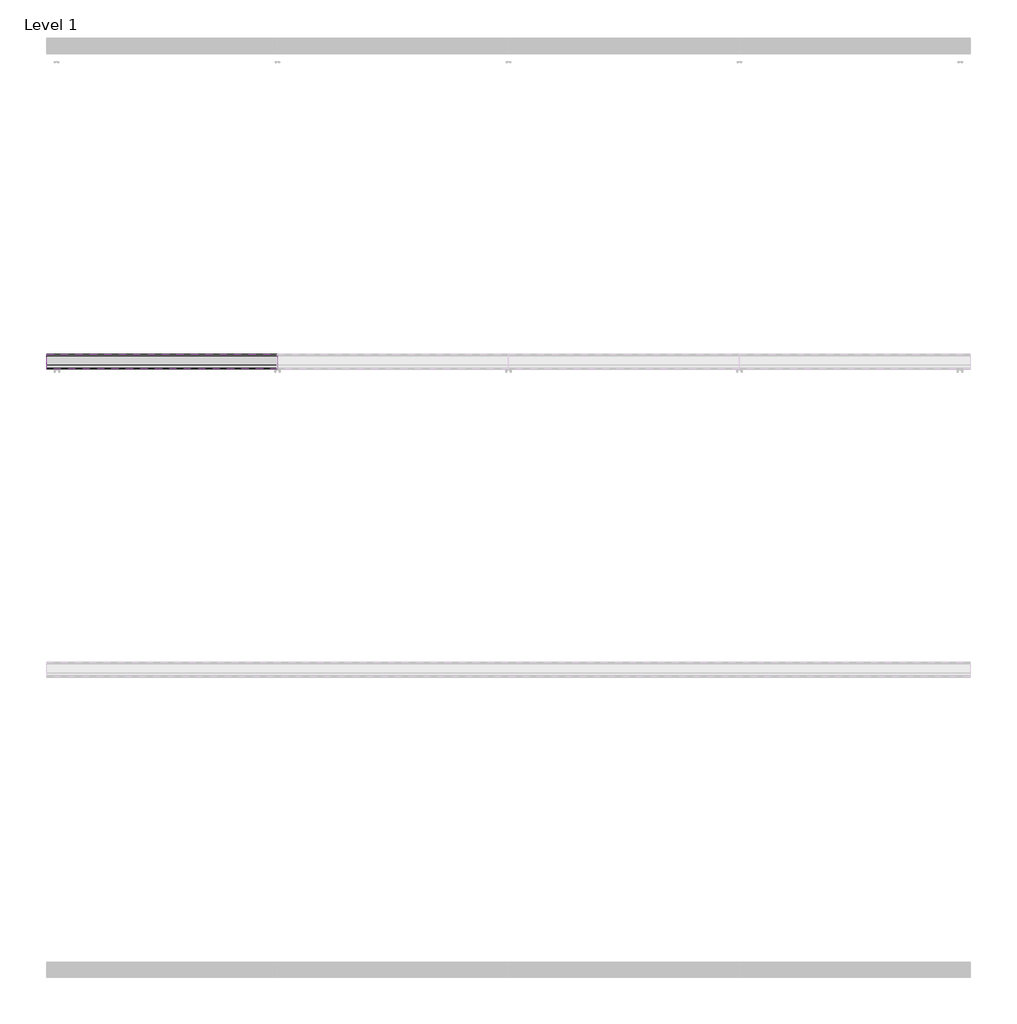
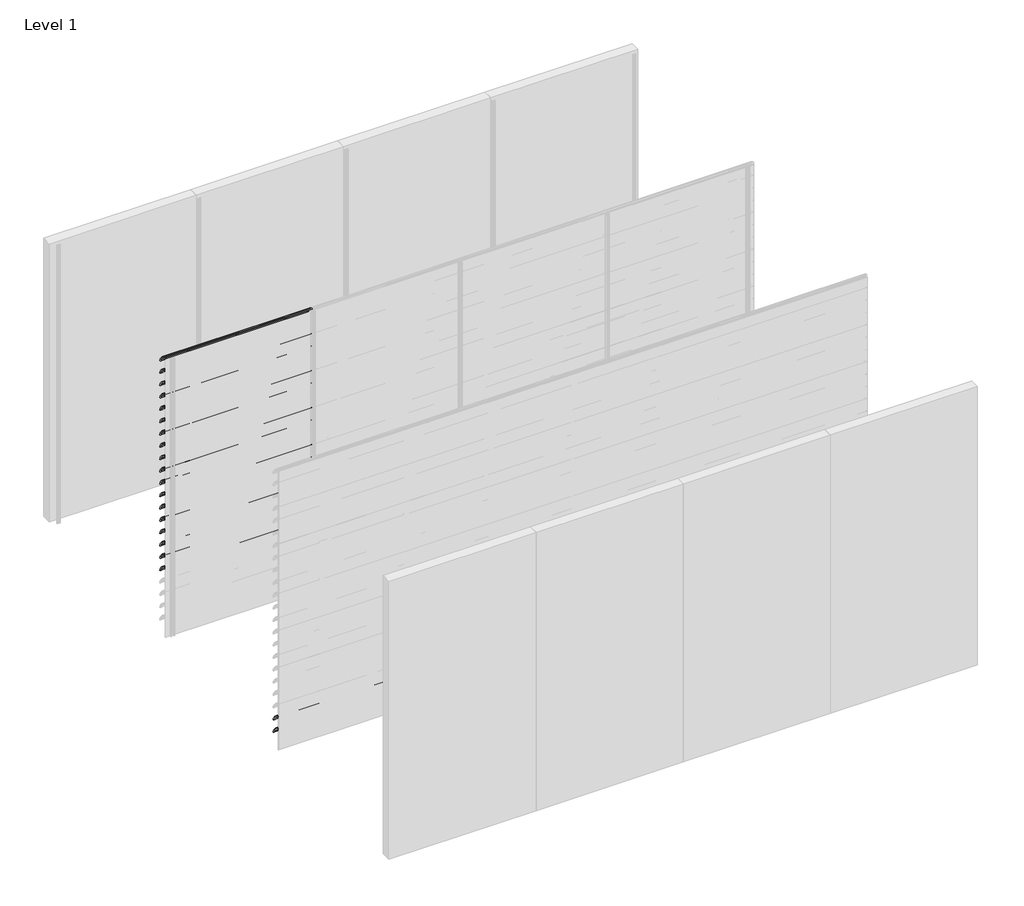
# One storey, part 48 of 57: 20 proxies.
"""IFC4 building model written with IfcOpenShell, lengths in millimetres."""

from ifc_helpers import new_model, si_unit, point, frame, frame_2d, origin, place, context, project, spatial, polyline, circle_curve, trimmed, segment, composite_curve, outline, extrude, element, save

model = new_model("IFC4")

# Units and contexts
model_context = context("Model", 3, world=origin())
ifc_project = project(units=[si_unit("LENGTHUNIT", "METRE", prefix="MILLI")], contexts=[model_context])

# Site, building, storey
site = spatial("IfcSite", under=ifc_project)
building = spatial("IfcBuilding", under=site)
storey = spatial("IfcBuildingStorey", under=building, Name="Level 1", Elevation=0.0)

# Proxies
placement = place(None, origin())
element("IfcBuildingElementProxy", 1, Name="Wall Sweeps", at=placement, inside=storey, context=model_context, shape_type="SweptSolid", body=[
    extrude(outline(composite_curve([segment(trimmed(circle_curve(frame_2d((-5993.7822526, 3016.4913792)), 4.2177474), [point((-5989.6985606, 3017.5462976))], [point((-5993.7822526, 3020.7091266))], False, "CARTESIAN"), True, "CONTINUOUS"), segment(trimmed(circle_curve(frame_2d((-6018.7150834, 2918.2536312)), 105.4456002), [point((-5993.7822526, 3020.7091266))], [point((-5971.7914298, 3012.6832099))], False, "CARTESIAN"), True, "CONTINUOUS"), segment(trimmed(circle_curve(frame_2d((-6061.7199745, 2864.0352476)), 173.7335887), [point((-5971.7914298, 3012.6832099))], [point((-5913.0720121, 2953.9637922))], False, "CARTESIAN"), True, "CONTINUOUS"), segment(trimmed(circle_curve(frame_2d((-6004.9297178, 2902.1860314)), 105.4456002), [point((-5913.0720121, 2953.9637922))], [point((-5903.6249616, 2931.4455765))], False, "CARTESIAN"), True, "CONTINUOUS"), segment(trimmed(circle_curve(frame_2d((-5907.809737, 2930.3307305)), 4.3307305), [point((-5903.6249616, 2931.4455765))], [point((-5909.0769196, 2926.189538))], False, "CARTESIAN"), True, "CONTINUOUS"), segment(polyline([(-5909.0769196, 2926.189538), (-5934.7401984, 2950.9722783)]), True, "CONTINUOUS"), segment(trimmed(circle_curve(frame_2d((-5931.3879574, 2953.2977626)), 4.079877), [point((-5934.7401984, 2950.9722783))], [point((-5930.7310597, 2957.3244091))], False, "CARTESIAN"), True, "CONTINUOUS"), segment(trimmed(circle_curve(frame_2d((-6014.6665585, 2935.2544323)), 86.7885467), [point((-5930.7310597, 2957.3244091))], [point((-5942.3028351, 2983.1683485))], True, "CARTESIAN"), True, "CONTINUOUS"), segment(polyline([(-5942.3028351, 2983.1683485), (-5940.7230099, 2985.9046861)]), True, "CONTINUOUS"), segment(trimmed(circle_curve(frame_2d((-6061.7199745, 2864.0352476)), 171.7335887), [point((-5940.7230099, 2985.9046861))], [point((-5972.7555872, 3010.9289618))], True, "CARTESIAN"), True, "CONTINUOUS"), segment(trimmed(circle_curve(frame_2d((-6018.7150834, 2918.2536312)), 103.4456002), [point((-5972.7555872, 3010.9289618))], [point((-5989.6985606, 3017.5462976))], True, "CARTESIAN"), True, "CONTINUOUS")], self_intersect=False)), frame((0.0, 0.0, 0.0), z_axis=(1.0, 0.0, 0.0), x_axis=(0.0, 1.0, 0.0)), (0.0, 0.0, 1.0), 1500.0),
])
element("IfcBuildingElementProxy", 2, Name="Wall Sweeps", at=placement, inside=storey, context=model_context, shape_type="SweptSolid", body=[
    extrude(outline(composite_curve([segment(trimmed(circle_curve(frame_2d((-5993.7822526, 2883.4913792)), 4.2177474), [point((-5989.6985606, 2884.5462976))], [point((-5993.7822526, 2887.7091266))], False, "CARTESIAN"), True, "CONTINUOUS"), segment(trimmed(circle_curve(frame_2d((-6018.7150834, 2785.2536312)), 105.4456002), [point((-5993.7822526, 2887.7091266))], [point((-5971.7914298, 2879.6832099))], False, "CARTESIAN"), True, "CONTINUOUS"), segment(trimmed(circle_curve(frame_2d((-6061.7199745, 2731.0352476)), 173.7335887), [point((-5971.7914298, 2879.6832099))], [point((-5913.0720121, 2820.9637922))], False, "CARTESIAN"), True, "CONTINUOUS"), segment(trimmed(circle_curve(frame_2d((-6004.9297178, 2769.1860314)), 105.4456002), [point((-5913.0720121, 2820.9637922))], [point((-5903.6249616, 2798.4455765))], False, "CARTESIAN"), True, "CONTINUOUS"), segment(trimmed(circle_curve(frame_2d((-5907.809737, 2797.3307305)), 4.3307305), [point((-5903.6249616, 2798.4455765))], [point((-5909.0769196, 2793.189538))], False, "CARTESIAN"), True, "CONTINUOUS"), segment(polyline([(-5909.0769196, 2793.189538), (-5934.7401984, 2817.9722783)]), True, "CONTINUOUS"), segment(trimmed(circle_curve(frame_2d((-5931.3879574, 2820.2977626)), 4.079877), [point((-5934.7401984, 2817.9722783))], [point((-5930.7310597, 2824.3244091))], False, "CARTESIAN"), True, "CONTINUOUS"), segment(trimmed(circle_curve(frame_2d((-6014.6665585, 2802.2544323)), 86.7885467), [point((-5930.7310597, 2824.3244091))], [point((-5942.3028351, 2850.1683485))], True, "CARTESIAN"), True, "CONTINUOUS"), segment(polyline([(-5942.3028351, 2850.1683485), (-5940.7230099, 2852.9046861)]), True, "CONTINUOUS"), segment(trimmed(circle_curve(frame_2d((-6061.7199745, 2731.0352476)), 171.7335887), [point((-5940.7230099, 2852.9046861))], [point((-5972.7555872, 2877.9289618))], True, "CARTESIAN"), True, "CONTINUOUS"), segment(trimmed(circle_curve(frame_2d((-6018.7150834, 2785.2536312)), 103.4456002), [point((-5972.7555872, 2877.9289618))], [point((-5989.6985606, 2884.5462976))], True, "CARTESIAN"), True, "CONTINUOUS")], self_intersect=False)), frame((0.0, 0.0, 0.0), z_axis=(1.0, 0.0, 0.0), x_axis=(0.0, 1.0, 0.0)), (0.0, 0.0, 1.0), 1500.0),
])
element("IfcBuildingElementProxy", 3, Name="Wall Sweeps", at=placement, inside=storey, context=model_context, shape_type="SweptSolid", body=[
    extrude(outline(composite_curve([segment(trimmed(circle_curve(frame_2d((-5993.7822526, 2750.4913792)), 4.2177474), [point((-5989.6985606, 2751.5462976))], [point((-5993.7822526, 2754.7091266))], False, "CARTESIAN"), True, "CONTINUOUS"), segment(trimmed(circle_curve(frame_2d((-6018.7150834, 2652.2536312)), 105.4456002), [point((-5993.7822526, 2754.7091266))], [point((-5971.7914298, 2746.6832099))], False, "CARTESIAN"), True, "CONTINUOUS"), segment(trimmed(circle_curve(frame_2d((-6061.7199745, 2598.0352476)), 173.7335887), [point((-5971.7914298, 2746.6832099))], [point((-5913.0720121, 2687.9637922))], False, "CARTESIAN"), True, "CONTINUOUS"), segment(trimmed(circle_curve(frame_2d((-6004.9297178, 2636.1860314)), 105.4456002), [point((-5913.0720121, 2687.9637922))], [point((-5903.6249616, 2665.4455765))], False, "CARTESIAN"), True, "CONTINUOUS"), segment(trimmed(circle_curve(frame_2d((-5907.809737, 2664.3307305)), 4.3307305), [point((-5903.6249616, 2665.4455765))], [point((-5909.0769196, 2660.189538))], False, "CARTESIAN"), True, "CONTINUOUS"), segment(polyline([(-5909.0769196, 2660.189538), (-5934.7401984, 2684.9722783)]), True, "CONTINUOUS"), segment(trimmed(circle_curve(frame_2d((-5931.3879574, 2687.2977626)), 4.079877), [point((-5934.7401984, 2684.9722783))], [point((-5930.7310597, 2691.3244091))], False, "CARTESIAN"), True, "CONTINUOUS"), segment(trimmed(circle_curve(frame_2d((-6014.6665585, 2669.2544323)), 86.7885467), [point((-5930.7310597, 2691.3244091))], [point((-5942.3028351, 2717.1683485))], True, "CARTESIAN"), True, "CONTINUOUS"), segment(polyline([(-5942.3028351, 2717.1683485), (-5940.7230099, 2719.9046861)]), True, "CONTINUOUS"), segment(trimmed(circle_curve(frame_2d((-6061.7199745, 2598.0352476)), 171.7335887), [point((-5940.7230099, 2719.9046861))], [point((-5972.7555872, 2744.9289618))], True, "CARTESIAN"), True, "CONTINUOUS"), segment(trimmed(circle_curve(frame_2d((-6018.7150834, 2652.2536312)), 103.4456002), [point((-5972.7555872, 2744.9289618))], [point((-5989.6985606, 2751.5462976))], True, "CARTESIAN"), True, "CONTINUOUS")], self_intersect=False)), frame((0.0, 0.0, 0.0), z_axis=(1.0, 0.0, 0.0), x_axis=(0.0, 1.0, 0.0)), (0.0, 0.0, 1.0), 1500.0),
])
element("IfcBuildingElementProxy", 4, Name="Wall Sweeps", at=placement, inside=storey, context=model_context, shape_type="SweptSolid", body=[
    extrude(outline(composite_curve([segment(trimmed(circle_curve(frame_2d((-5993.7822526, 2617.4913792)), 4.2177474), [point((-5989.6985606, 2618.5462976))], [point((-5993.7822526, 2621.7091266))], False, "CARTESIAN"), True, "CONTINUOUS"), segment(trimmed(circle_curve(frame_2d((-6018.7150834, 2519.2536312)), 105.4456002), [point((-5993.7822526, 2621.7091266))], [point((-5971.7914298, 2613.6832099))], False, "CARTESIAN"), True, "CONTINUOUS"), segment(trimmed(circle_curve(frame_2d((-6061.7199745, 2465.0352476)), 173.7335887), [point((-5971.7914298, 2613.6832099))], [point((-5913.0720121, 2554.9637922))], False, "CARTESIAN"), True, "CONTINUOUS"), segment(trimmed(circle_curve(frame_2d((-6004.9297178, 2503.1860314)), 105.4456002), [point((-5913.0720121, 2554.9637922))], [point((-5903.6249616, 2532.4455765))], False, "CARTESIAN"), True, "CONTINUOUS"), segment(trimmed(circle_curve(frame_2d((-5907.809737, 2531.3307305)), 4.3307305), [point((-5903.6249616, 2532.4455765))], [point((-5909.0769196, 2527.189538))], False, "CARTESIAN"), True, "CONTINUOUS"), segment(polyline([(-5909.0769196, 2527.189538), (-5934.7401984, 2551.9722783)]), True, "CONTINUOUS"), segment(trimmed(circle_curve(frame_2d((-5931.3879574, 2554.2977626)), 4.079877), [point((-5934.7401984, 2551.9722783))], [point((-5930.7310597, 2558.3244091))], False, "CARTESIAN"), True, "CONTINUOUS"), segment(trimmed(circle_curve(frame_2d((-6014.6665585, 2536.2544323)), 86.7885467), [point((-5930.7310597, 2558.3244091))], [point((-5942.3028351, 2584.1683485))], True, "CARTESIAN"), True, "CONTINUOUS"), segment(polyline([(-5942.3028351, 2584.1683485), (-5940.7230099, 2586.9046861)]), True, "CONTINUOUS"), segment(trimmed(circle_curve(frame_2d((-6061.7199745, 2465.0352476)), 171.7335887), [point((-5940.7230099, 2586.9046861))], [point((-5972.7555872, 2611.9289618))], True, "CARTESIAN"), True, "CONTINUOUS"), segment(trimmed(circle_curve(frame_2d((-6018.7150834, 2519.2536312)), 103.4456002), [point((-5972.7555872, 2611.9289618))], [point((-5989.6985606, 2618.5462976))], True, "CARTESIAN"), True, "CONTINUOUS")], self_intersect=False)), frame((0.0, 0.0, 0.0), z_axis=(1.0, 0.0, 0.0), x_axis=(0.0, 1.0, 0.0)), (0.0, 0.0, 1.0), 1500.0),
])
element("IfcBuildingElementProxy", 5, Name="Wall Sweeps", at=placement, inside=storey, context=model_context, shape_type="SweptSolid", body=[
    extrude(outline(composite_curve([segment(trimmed(circle_curve(frame_2d((-5993.7822526, 2484.4913792)), 4.2177474), [point((-5989.6985606, 2485.5462976))], [point((-5993.7822526, 2488.7091266))], False, "CARTESIAN"), True, "CONTINUOUS"), segment(trimmed(circle_curve(frame_2d((-6018.7150834, 2386.2536312)), 105.4456002), [point((-5993.7822526, 2488.7091266))], [point((-5971.7914298, 2480.6832099))], False, "CARTESIAN"), True, "CONTINUOUS"), segment(trimmed(circle_curve(frame_2d((-6061.7199745, 2332.0352476)), 173.7335887), [point((-5971.7914298, 2480.6832099))], [point((-5913.0720121, 2421.9637922))], False, "CARTESIAN"), True, "CONTINUOUS"), segment(trimmed(circle_curve(frame_2d((-6004.9297178, 2370.1860314)), 105.4456002), [point((-5913.0720121, 2421.9637922))], [point((-5903.6249616, 2399.4455765))], False, "CARTESIAN"), True, "CONTINUOUS"), segment(trimmed(circle_curve(frame_2d((-5907.809737, 2398.3307305)), 4.3307305), [point((-5903.6249616, 2399.4455765))], [point((-5909.0769196, 2394.189538))], False, "CARTESIAN"), True, "CONTINUOUS"), segment(polyline([(-5909.0769196, 2394.189538), (-5934.7401984, 2418.9722783)]), True, "CONTINUOUS"), segment(trimmed(circle_curve(frame_2d((-5931.3879574, 2421.2977626)), 4.079877), [point((-5934.7401984, 2418.9722783))], [point((-5930.7310597, 2425.3244091))], False, "CARTESIAN"), True, "CONTINUOUS"), segment(trimmed(circle_curve(frame_2d((-6014.6665585, 2403.2544323)), 86.7885467), [point((-5930.7310597, 2425.3244091))], [point((-5942.3028351, 2451.1683485))], True, "CARTESIAN"), True, "CONTINUOUS"), segment(polyline([(-5942.3028351, 2451.1683485), (-5940.7230099, 2453.9046861)]), True, "CONTINUOUS"), segment(trimmed(circle_curve(frame_2d((-6061.7199745, 2332.0352476)), 171.7335887), [point((-5940.7230099, 2453.9046861))], [point((-5972.7555872, 2478.9289618))], True, "CARTESIAN"), True, "CONTINUOUS"), segment(trimmed(circle_curve(frame_2d((-6018.7150834, 2386.2536312)), 103.4456002), [point((-5972.7555872, 2478.9289618))], [point((-5989.6985606, 2485.5462976))], True, "CARTESIAN"), True, "CONTINUOUS")], self_intersect=False)), frame((0.0, 0.0, 0.0), z_axis=(1.0, 0.0, 0.0), x_axis=(0.0, 1.0, 0.0)), (0.0, 0.0, 1.0), 1500.0),
])
element("IfcBuildingElementProxy", 6, Name="Wall Sweeps", at=placement, inside=storey, context=model_context, shape_type="SweptSolid", body=[
    extrude(outline(composite_curve([segment(trimmed(circle_curve(frame_2d((-5993.7822526, 2351.4913792)), 4.2177474), [point((-5989.6985606, 2352.5462976))], [point((-5993.7822526, 2355.7091266))], False, "CARTESIAN"), True, "CONTINUOUS"), segment(trimmed(circle_curve(frame_2d((-6018.7150834, 2253.2536312)), 105.4456002), [point((-5993.7822526, 2355.7091266))], [point((-5971.7914298, 2347.6832099))], False, "CARTESIAN"), True, "CONTINUOUS"), segment(trimmed(circle_curve(frame_2d((-6061.7199745, 2199.0352476)), 173.7335887), [point((-5971.7914298, 2347.6832099))], [point((-5913.0720121, 2288.9637922))], False, "CARTESIAN"), True, "CONTINUOUS"), segment(trimmed(circle_curve(frame_2d((-6004.9297178, 2237.1860314)), 105.4456002), [point((-5913.0720121, 2288.9637922))], [point((-5903.6249616, 2266.4455765))], False, "CARTESIAN"), True, "CONTINUOUS"), segment(trimmed(circle_curve(frame_2d((-5907.809737, 2265.3307305)), 4.3307305), [point((-5903.6249616, 2266.4455765))], [point((-5909.0769196, 2261.189538))], False, "CARTESIAN"), True, "CONTINUOUS"), segment(polyline([(-5909.0769196, 2261.189538), (-5934.7401984, 2285.9722783)]), True, "CONTINUOUS"), segment(trimmed(circle_curve(frame_2d((-5931.3879574, 2288.2977626)), 4.079877), [point((-5934.7401984, 2285.9722783))], [point((-5930.7310597, 2292.3244091))], False, "CARTESIAN"), True, "CONTINUOUS"), segment(trimmed(circle_curve(frame_2d((-6014.6665585, 2270.2544323)), 86.7885467), [point((-5930.7310597, 2292.3244091))], [point((-5942.3028351, 2318.1683485))], True, "CARTESIAN"), True, "CONTINUOUS"), segment(polyline([(-5942.3028351, 2318.1683485), (-5940.7230099, 2320.9046861)]), True, "CONTINUOUS"), segment(trimmed(circle_curve(frame_2d((-6061.7199745, 2199.0352476)), 171.7335887), [point((-5940.7230099, 2320.9046861))], [point((-5972.7555872, 2345.9289618))], True, "CARTESIAN"), True, "CONTINUOUS"), segment(trimmed(circle_curve(frame_2d((-6018.7150834, 2253.2536312)), 103.4456002), [point((-5972.7555872, 2345.9289618))], [point((-5989.6985606, 2352.5462976))], True, "CARTESIAN"), True, "CONTINUOUS")], self_intersect=False)), frame((0.0, 0.0, 0.0), z_axis=(1.0, 0.0, 0.0), x_axis=(0.0, 1.0, 0.0)), (0.0, 0.0, 1.0), 1500.0),
])
element("IfcBuildingElementProxy", 7, Name="Wall Sweeps", at=placement, inside=storey, context=model_context, shape_type="SweptSolid", body=[
    extrude(outline(composite_curve([segment(trimmed(circle_curve(frame_2d((-5993.7822526, 2218.4913792)), 4.2177474), [point((-5989.6985606, 2219.5462976))], [point((-5993.7822526, 2222.7091266))], False, "CARTESIAN"), True, "CONTINUOUS"), segment(trimmed(circle_curve(frame_2d((-6018.7150834, 2120.2536312)), 105.4456002), [point((-5993.7822526, 2222.7091266))], [point((-5971.7914298, 2214.6832099))], False, "CARTESIAN"), True, "CONTINUOUS"), segment(trimmed(circle_curve(frame_2d((-6061.7199745, 2066.0352476)), 173.7335887), [point((-5971.7914298, 2214.6832099))], [point((-5913.0720121, 2155.9637922))], False, "CARTESIAN"), True, "CONTINUOUS"), segment(trimmed(circle_curve(frame_2d((-6004.9297178, 2104.1860314)), 105.4456002), [point((-5913.0720121, 2155.9637922))], [point((-5903.6249616, 2133.4455765))], False, "CARTESIAN"), True, "CONTINUOUS"), segment(trimmed(circle_curve(frame_2d((-5907.809737, 2132.3307305)), 4.3307305), [point((-5903.6249616, 2133.4455765))], [point((-5909.0769196, 2128.189538))], False, "CARTESIAN"), True, "CONTINUOUS"), segment(polyline([(-5909.0769196, 2128.189538), (-5934.7401984, 2152.9722783)]), True, "CONTINUOUS"), segment(trimmed(circle_curve(frame_2d((-5931.3879574, 2155.2977626)), 4.079877), [point((-5934.7401984, 2152.9722783))], [point((-5930.7310597, 2159.3244091))], False, "CARTESIAN"), True, "CONTINUOUS"), segment(trimmed(circle_curve(frame_2d((-6014.6665585, 2137.2544323)), 86.7885467), [point((-5930.7310597, 2159.3244091))], [point((-5942.3028351, 2185.1683485))], True, "CARTESIAN"), True, "CONTINUOUS"), segment(polyline([(-5942.3028351, 2185.1683485), (-5940.7230099, 2187.9046861)]), True, "CONTINUOUS"), segment(trimmed(circle_curve(frame_2d((-6061.7199745, 2066.0352476)), 171.7335887), [point((-5940.7230099, 2187.9046861))], [point((-5972.7555872, 2212.9289618))], True, "CARTESIAN"), True, "CONTINUOUS"), segment(trimmed(circle_curve(frame_2d((-6018.7150834, 2120.2536312)), 103.4456002), [point((-5972.7555872, 2212.9289618))], [point((-5989.6985606, 2219.5462976))], True, "CARTESIAN"), True, "CONTINUOUS")], self_intersect=False)), frame((0.0, 0.0, 0.0), z_axis=(1.0, 0.0, 0.0), x_axis=(0.0, 1.0, 0.0)), (0.0, 0.0, 1.0), 1500.0),
])
element("IfcBuildingElementProxy", 8, Name="Wall Sweeps", at=placement, inside=storey, context=model_context, shape_type="SweptSolid", body=[
    extrude(outline(composite_curve([segment(trimmed(circle_curve(frame_2d((-5993.7822526, 2085.4913792)), 4.2177474), [point((-5989.6985606, 2086.5462976))], [point((-5993.7822526, 2089.7091266))], False, "CARTESIAN"), True, "CONTINUOUS"), segment(trimmed(circle_curve(frame_2d((-6018.7150834, 1987.2536312)), 105.4456002), [point((-5993.7822526, 2089.7091266))], [point((-5971.7914298, 2081.6832099))], False, "CARTESIAN"), True, "CONTINUOUS"), segment(trimmed(circle_curve(frame_2d((-6061.7199745, 1933.0352476)), 173.7335887), [point((-5971.7914298, 2081.6832099))], [point((-5913.0720121, 2022.9637922))], False, "CARTESIAN"), True, "CONTINUOUS"), segment(trimmed(circle_curve(frame_2d((-6004.9297178, 1971.1860314)), 105.4456002), [point((-5913.0720121, 2022.9637922))], [point((-5903.6249616, 2000.4455765))], False, "CARTESIAN"), True, "CONTINUOUS"), segment(trimmed(circle_curve(frame_2d((-5907.809737, 1999.3307305)), 4.3307305), [point((-5903.6249616, 2000.4455765))], [point((-5909.0769196, 1995.189538))], False, "CARTESIAN"), True, "CONTINUOUS"), segment(polyline([(-5909.0769196, 1995.189538), (-5934.7401984, 2019.9722783)]), True, "CONTINUOUS"), segment(trimmed(circle_curve(frame_2d((-5931.3879574, 2022.2977626)), 4.079877), [point((-5934.7401984, 2019.9722783))], [point((-5930.7310597, 2026.3244091))], False, "CARTESIAN"), True, "CONTINUOUS"), segment(trimmed(circle_curve(frame_2d((-6014.6665585, 2004.2544323)), 86.7885467), [point((-5930.7310597, 2026.3244091))], [point((-5942.3028351, 2052.1683485))], True, "CARTESIAN"), True, "CONTINUOUS"), segment(polyline([(-5942.3028351, 2052.1683485), (-5940.7230099, 2054.9046861)]), True, "CONTINUOUS"), segment(trimmed(circle_curve(frame_2d((-6061.7199745, 1933.0352476)), 171.7335887), [point((-5940.7230099, 2054.9046861))], [point((-5972.7555872, 2079.9289618))], True, "CARTESIAN"), True, "CONTINUOUS"), segment(trimmed(circle_curve(frame_2d((-6018.7150834, 1987.2536312)), 103.4456002), [point((-5972.7555872, 2079.9289618))], [point((-5989.6985606, 2086.5462976))], True, "CARTESIAN"), True, "CONTINUOUS")], self_intersect=False)), frame((0.0, 0.0, 0.0), z_axis=(1.0, 0.0, 0.0), x_axis=(0.0, 1.0, 0.0)), (0.0, 0.0, 1.0), 1500.0),
])
element("IfcBuildingElementProxy", 9, Name="Wall Sweeps", at=placement, inside=storey, context=model_context, shape_type="SweptSolid", body=[
    extrude(outline(composite_curve([segment(trimmed(circle_curve(frame_2d((-5993.7822526, 1952.4913792)), 4.2177474), [point((-5989.6985606, 1953.5462976))], [point((-5993.7822526, 1956.7091266))], False, "CARTESIAN"), True, "CONTINUOUS"), segment(trimmed(circle_curve(frame_2d((-6018.7150834, 1854.2536312)), 105.4456002), [point((-5993.7822526, 1956.7091266))], [point((-5971.7914298, 1948.6832099))], False, "CARTESIAN"), True, "CONTINUOUS"), segment(trimmed(circle_curve(frame_2d((-6061.7199745, 1800.0352476)), 173.7335887), [point((-5971.7914298, 1948.6832099))], [point((-5913.0720121, 1889.9637922))], False, "CARTESIAN"), True, "CONTINUOUS"), segment(trimmed(circle_curve(frame_2d((-6004.9297178, 1838.1860314)), 105.4456002), [point((-5913.0720121, 1889.9637922))], [point((-5903.6249616, 1867.4455765))], False, "CARTESIAN"), True, "CONTINUOUS"), segment(trimmed(circle_curve(frame_2d((-5907.809737, 1866.3307305)), 4.3307305), [point((-5903.6249616, 1867.4455765))], [point((-5909.0769196, 1862.189538))], False, "CARTESIAN"), True, "CONTINUOUS"), segment(polyline([(-5909.0769196, 1862.189538), (-5934.7401984, 1886.9722783)]), True, "CONTINUOUS"), segment(trimmed(circle_curve(frame_2d((-5931.3879574, 1889.2977626)), 4.079877), [point((-5934.7401984, 1886.9722783))], [point((-5930.7310597, 1893.3244091))], False, "CARTESIAN"), True, "CONTINUOUS"), segment(trimmed(circle_curve(frame_2d((-6014.6665585, 1871.2544323)), 86.7885467), [point((-5930.7310597, 1893.3244091))], [point((-5942.3028351, 1919.1683485))], True, "CARTESIAN"), True, "CONTINUOUS"), segment(polyline([(-5942.3028351, 1919.1683485), (-5940.7230099, 1921.9046861)]), True, "CONTINUOUS"), segment(trimmed(circle_curve(frame_2d((-6061.7199745, 1800.0352476)), 171.7335887), [point((-5940.7230099, 1921.9046861))], [point((-5972.7555872, 1946.9289618))], True, "CARTESIAN"), True, "CONTINUOUS"), segment(trimmed(circle_curve(frame_2d((-6018.7150834, 1854.2536312)), 103.4456002), [point((-5972.7555872, 1946.9289618))], [point((-5989.6985606, 1953.5462976))], True, "CARTESIAN"), True, "CONTINUOUS")], self_intersect=False)), frame((0.0, 0.0, 0.0), z_axis=(1.0, 0.0, 0.0), x_axis=(0.0, 1.0, 0.0)), (0.0, 0.0, 1.0), 1500.0),
])
element("IfcBuildingElementProxy", 10, Name="Wall Sweeps", at=placement, inside=storey, context=model_context, shape_type="SweptSolid", body=[
    extrude(outline(composite_curve([segment(trimmed(circle_curve(frame_2d((-5993.7822526, 1819.4913792)), 4.2177474), [point((-5989.6985606, 1820.5462976))], [point((-5993.7822526, 1823.7091266))], False, "CARTESIAN"), True, "CONTINUOUS"), segment(trimmed(circle_curve(frame_2d((-6018.7150834, 1721.2536312)), 105.4456002), [point((-5993.7822526, 1823.7091266))], [point((-5971.7914298, 1815.6832099))], False, "CARTESIAN"), True, "CONTINUOUS"), segment(trimmed(circle_curve(frame_2d((-6061.7199745, 1667.0352476)), 173.7335887), [point((-5971.7914298, 1815.6832099))], [point((-5913.0720121, 1756.9637922))], False, "CARTESIAN"), True, "CONTINUOUS"), segment(trimmed(circle_curve(frame_2d((-6004.9297178, 1705.1860314)), 105.4456002), [point((-5913.0720121, 1756.9637922))], [point((-5903.6249616, 1734.4455765))], False, "CARTESIAN"), True, "CONTINUOUS"), segment(trimmed(circle_curve(frame_2d((-5907.809737, 1733.3307305)), 4.3307305), [point((-5903.6249616, 1734.4455765))], [point((-5909.0769196, 1729.189538))], False, "CARTESIAN"), True, "CONTINUOUS"), segment(polyline([(-5909.0769196, 1729.189538), (-5934.7401984, 1753.9722783)]), True, "CONTINUOUS"), segment(trimmed(circle_curve(frame_2d((-5931.3879574, 1756.2977626)), 4.079877), [point((-5934.7401984, 1753.9722783))], [point((-5930.7310597, 1760.3244091))], False, "CARTESIAN"), True, "CONTINUOUS"), segment(trimmed(circle_curve(frame_2d((-6014.6665585, 1738.2544323)), 86.7885467), [point((-5930.7310597, 1760.3244091))], [point((-5942.3028351, 1786.1683485))], True, "CARTESIAN"), True, "CONTINUOUS"), segment(polyline([(-5942.3028351, 1786.1683485), (-5940.7230099, 1788.9046861)]), True, "CONTINUOUS"), segment(trimmed(circle_curve(frame_2d((-6061.7199745, 1667.0352476)), 171.7335887), [point((-5940.7230099, 1788.9046861))], [point((-5972.7555872, 1813.9289618))], True, "CARTESIAN"), True, "CONTINUOUS"), segment(trimmed(circle_curve(frame_2d((-6018.7150834, 1721.2536312)), 103.4456002), [point((-5972.7555872, 1813.9289618))], [point((-5989.6985606, 1820.5462976))], True, "CARTESIAN"), True, "CONTINUOUS")], self_intersect=False)), frame((0.0, 0.0, 0.0), z_axis=(1.0, 0.0, 0.0), x_axis=(0.0, 1.0, 0.0)), (0.0, 0.0, 1.0), 1500.0),
])
element("IfcBuildingElementProxy", 11, Name="Wall Sweeps", at=placement, inside=storey, context=model_context, shape_type="SweptSolid", body=[
    extrude(outline(composite_curve([segment(trimmed(circle_curve(frame_2d((-5993.7822526, 1686.4913792)), 4.2177474), [point((-5989.6985606, 1687.5462976))], [point((-5993.7822526, 1690.7091266))], False, "CARTESIAN"), True, "CONTINUOUS"), segment(trimmed(circle_curve(frame_2d((-6018.7150834, 1588.2536312)), 105.4456002), [point((-5993.7822526, 1690.7091266))], [point((-5971.7914298, 1682.6832099))], False, "CARTESIAN"), True, "CONTINUOUS"), segment(trimmed(circle_curve(frame_2d((-6061.7199745, 1534.0352476)), 173.7335887), [point((-5971.7914298, 1682.6832099))], [point((-5913.0720121, 1623.9637922))], False, "CARTESIAN"), True, "CONTINUOUS"), segment(trimmed(circle_curve(frame_2d((-6004.9297178, 1572.1860314)), 105.4456002), [point((-5913.0720121, 1623.9637922))], [point((-5903.6249616, 1601.4455765))], False, "CARTESIAN"), True, "CONTINUOUS"), segment(trimmed(circle_curve(frame_2d((-5907.809737, 1600.3307305)), 4.3307305), [point((-5903.6249616, 1601.4455765))], [point((-5909.0769196, 1596.189538))], False, "CARTESIAN"), True, "CONTINUOUS"), segment(polyline([(-5909.0769196, 1596.189538), (-5934.7401984, 1620.9722783)]), True, "CONTINUOUS"), segment(trimmed(circle_curve(frame_2d((-5931.3879574, 1623.2977626)), 4.079877), [point((-5934.7401984, 1620.9722783))], [point((-5930.7310597, 1627.3244091))], False, "CARTESIAN"), True, "CONTINUOUS"), segment(trimmed(circle_curve(frame_2d((-6014.6665585, 1605.2544323)), 86.7885467), [point((-5930.7310597, 1627.3244091))], [point((-5942.3028351, 1653.1683485))], True, "CARTESIAN"), True, "CONTINUOUS"), segment(polyline([(-5942.3028351, 1653.1683485), (-5940.7230099, 1655.9046861)]), True, "CONTINUOUS"), segment(trimmed(circle_curve(frame_2d((-6061.7199745, 1534.0352476)), 171.7335887), [point((-5940.7230099, 1655.9046861))], [point((-5972.7555872, 1680.9289618))], True, "CARTESIAN"), True, "CONTINUOUS"), segment(trimmed(circle_curve(frame_2d((-6018.7150834, 1588.2536312)), 103.4456002), [point((-5972.7555872, 1680.9289618))], [point((-5989.6985606, 1687.5462976))], True, "CARTESIAN"), True, "CONTINUOUS")], self_intersect=False)), frame((0.0, 0.0, 0.0), z_axis=(1.0, 0.0, 0.0), x_axis=(0.0, 1.0, 0.0)), (0.0, 0.0, 1.0), 1500.0),
])
element("IfcBuildingElementProxy", 12, Name="Wall Sweeps", at=placement, inside=storey, context=model_context, shape_type="SweptSolid", body=[
    extrude(outline(composite_curve([segment(trimmed(circle_curve(frame_2d((-5993.7822526, 1553.4913792)), 4.2177474), [point((-5989.6985606, 1554.5462976))], [point((-5993.7822526, 1557.7091266))], False, "CARTESIAN"), True, "CONTINUOUS"), segment(trimmed(circle_curve(frame_2d((-6018.7150834, 1455.2536312)), 105.4456002), [point((-5993.7822526, 1557.7091266))], [point((-5971.7914298, 1549.6832099))], False, "CARTESIAN"), True, "CONTINUOUS"), segment(trimmed(circle_curve(frame_2d((-6061.7199745, 1401.0352476)), 173.7335887), [point((-5971.7914298, 1549.6832099))], [point((-5913.0720121, 1490.9637922))], False, "CARTESIAN"), True, "CONTINUOUS"), segment(trimmed(circle_curve(frame_2d((-6004.9297178, 1439.1860314)), 105.4456002), [point((-5913.0720121, 1490.9637922))], [point((-5903.6249616, 1468.4455765))], False, "CARTESIAN"), True, "CONTINUOUS"), segment(trimmed(circle_curve(frame_2d((-5907.809737, 1467.3307305)), 4.3307305), [point((-5903.6249616, 1468.4455765))], [point((-5909.0769196, 1463.189538))], False, "CARTESIAN"), True, "CONTINUOUS"), segment(polyline([(-5909.0769196, 1463.189538), (-5934.7401984, 1487.9722783)]), True, "CONTINUOUS"), segment(trimmed(circle_curve(frame_2d((-5931.3879574, 1490.2977626)), 4.079877), [point((-5934.7401984, 1487.9722783))], [point((-5930.7310597, 1494.3244091))], False, "CARTESIAN"), True, "CONTINUOUS"), segment(trimmed(circle_curve(frame_2d((-6014.6665585, 1472.2544323)), 86.7885467), [point((-5930.7310597, 1494.3244091))], [point((-5942.3028351, 1520.1683485))], True, "CARTESIAN"), True, "CONTINUOUS"), segment(polyline([(-5942.3028351, 1520.1683485), (-5940.7230099, 1522.9046861)]), True, "CONTINUOUS"), segment(trimmed(circle_curve(frame_2d((-6061.7199745, 1401.0352476)), 171.7335887), [point((-5940.7230099, 1522.9046861))], [point((-5972.7555872, 1547.9289618))], True, "CARTESIAN"), True, "CONTINUOUS"), segment(trimmed(circle_curve(frame_2d((-6018.7150834, 1455.2536312)), 103.4456002), [point((-5972.7555872, 1547.9289618))], [point((-5989.6985606, 1554.5462976))], True, "CARTESIAN"), True, "CONTINUOUS")], self_intersect=False)), frame((0.0, 0.0, 0.0), z_axis=(1.0, 0.0, 0.0), x_axis=(0.0, 1.0, 0.0)), (0.0, 0.0, 1.0), 1500.0),
])
element("IfcBuildingElementProxy", 13, Name="Wall Sweeps", at=placement, inside=storey, context=model_context, shape_type="SweptSolid", body=[
    extrude(outline(composite_curve([segment(trimmed(circle_curve(frame_2d((-5993.7822526, 1420.4913792)), 4.2177474), [point((-5989.6985606, 1421.5462976))], [point((-5993.7822526, 1424.7091266))], False, "CARTESIAN"), True, "CONTINUOUS"), segment(trimmed(circle_curve(frame_2d((-6018.7150834, 1322.2536312)), 105.4456002), [point((-5993.7822526, 1424.7091266))], [point((-5971.7914298, 1416.6832099))], False, "CARTESIAN"), True, "CONTINUOUS"), segment(trimmed(circle_curve(frame_2d((-6061.7199745, 1268.0352476)), 173.7335887), [point((-5971.7914298, 1416.6832099))], [point((-5913.0720121, 1357.9637922))], False, "CARTESIAN"), True, "CONTINUOUS"), segment(trimmed(circle_curve(frame_2d((-6004.9297178, 1306.1860314)), 105.4456002), [point((-5913.0720121, 1357.9637922))], [point((-5903.6249616, 1335.4455765))], False, "CARTESIAN"), True, "CONTINUOUS"), segment(trimmed(circle_curve(frame_2d((-5907.809737, 1334.3307305)), 4.3307305), [point((-5903.6249616, 1335.4455765))], [point((-5909.0769196, 1330.189538))], False, "CARTESIAN"), True, "CONTINUOUS"), segment(polyline([(-5909.0769196, 1330.189538), (-5934.7401984, 1354.9722783)]), True, "CONTINUOUS"), segment(trimmed(circle_curve(frame_2d((-5931.3879574, 1357.2977626)), 4.079877), [point((-5934.7401984, 1354.9722783))], [point((-5930.7310597, 1361.3244091))], False, "CARTESIAN"), True, "CONTINUOUS"), segment(trimmed(circle_curve(frame_2d((-6014.6665585, 1339.2544323)), 86.7885467), [point((-5930.7310597, 1361.3244091))], [point((-5942.3028351, 1387.1683485))], True, "CARTESIAN"), True, "CONTINUOUS"), segment(polyline([(-5942.3028351, 1387.1683485), (-5940.7230099, 1389.9046861)]), True, "CONTINUOUS"), segment(trimmed(circle_curve(frame_2d((-6061.7199745, 1268.0352476)), 171.7335887), [point((-5940.7230099, 1389.9046861))], [point((-5972.7555872, 1414.9289618))], True, "CARTESIAN"), True, "CONTINUOUS"), segment(trimmed(circle_curve(frame_2d((-6018.7150834, 1322.2536312)), 103.4456002), [point((-5972.7555872, 1414.9289618))], [point((-5989.6985606, 1421.5462976))], True, "CARTESIAN"), True, "CONTINUOUS")], self_intersect=False)), frame((0.0, 0.0, 0.0), z_axis=(1.0, 0.0, 0.0), x_axis=(0.0, 1.0, 0.0)), (0.0, 0.0, 1.0), 1500.0),
])
element("IfcBuildingElementProxy", 14, Name="Wall Sweeps", at=placement, inside=storey, context=model_context, shape_type="SweptSolid", body=[
    extrude(outline(composite_curve([segment(trimmed(circle_curve(frame_2d((-5993.7822526, 1287.4913792)), 4.2177474), [point((-5989.6985606, 1288.5462976))], [point((-5993.7822526, 1291.7091266))], False, "CARTESIAN"), True, "CONTINUOUS"), segment(trimmed(circle_curve(frame_2d((-6018.7150834, 1189.2536312)), 105.4456002), [point((-5993.7822526, 1291.7091266))], [point((-5971.7914298, 1283.6832099))], False, "CARTESIAN"), True, "CONTINUOUS"), segment(trimmed(circle_curve(frame_2d((-6061.7199745, 1135.0352476)), 173.7335887), [point((-5971.7914298, 1283.6832099))], [point((-5913.0720121, 1224.9637922))], False, "CARTESIAN"), True, "CONTINUOUS"), segment(trimmed(circle_curve(frame_2d((-6004.9297178, 1173.1860314)), 105.4456002), [point((-5913.0720121, 1224.9637922))], [point((-5903.6249616, 1202.4455765))], False, "CARTESIAN"), True, "CONTINUOUS"), segment(trimmed(circle_curve(frame_2d((-5907.809737, 1201.3307305)), 4.3307305), [point((-5903.6249616, 1202.4455765))], [point((-5909.0769196, 1197.189538))], False, "CARTESIAN"), True, "CONTINUOUS"), segment(polyline([(-5909.0769196, 1197.189538), (-5934.7401984, 1221.9722783)]), True, "CONTINUOUS"), segment(trimmed(circle_curve(frame_2d((-5931.3879574, 1224.2977626)), 4.079877), [point((-5934.7401984, 1221.9722783))], [point((-5930.7310597, 1228.3244091))], False, "CARTESIAN"), True, "CONTINUOUS"), segment(trimmed(circle_curve(frame_2d((-6014.6665585, 1206.2544323)), 86.7885467), [point((-5930.7310597, 1228.3244091))], [point((-5942.3028351, 1254.1683485))], True, "CARTESIAN"), True, "CONTINUOUS"), segment(polyline([(-5942.3028351, 1254.1683485), (-5940.7230099, 1256.9046861)]), True, "CONTINUOUS"), segment(trimmed(circle_curve(frame_2d((-6061.7199745, 1135.0352476)), 171.7335887), [point((-5940.7230099, 1256.9046861))], [point((-5972.7555872, 1281.9289618))], True, "CARTESIAN"), True, "CONTINUOUS"), segment(trimmed(circle_curve(frame_2d((-6018.7150834, 1189.2536312)), 103.4456002), [point((-5972.7555872, 1281.9289618))], [point((-5989.6985606, 1288.5462976))], True, "CARTESIAN"), True, "CONTINUOUS")], self_intersect=False)), frame((0.0, 0.0, 0.0), z_axis=(1.0, 0.0, 0.0), x_axis=(0.0, 1.0, 0.0)), (0.0, 0.0, 1.0), 1500.0),
])
element("IfcBuildingElementProxy", 15, Name="Wall Sweeps", at=placement, inside=storey, context=model_context, shape_type="SweptSolid", body=[
    extrude(outline(composite_curve([segment(trimmed(circle_curve(frame_2d((-5993.7822526, 1154.4913792)), 4.2177474), [point((-5989.6985606, 1155.5462976))], [point((-5993.7822526, 1158.7091266))], False, "CARTESIAN"), True, "CONTINUOUS"), segment(trimmed(circle_curve(frame_2d((-6018.7150834, 1056.2536312)), 105.4456002), [point((-5993.7822526, 1158.7091266))], [point((-5971.7914298, 1150.6832099))], False, "CARTESIAN"), True, "CONTINUOUS"), segment(trimmed(circle_curve(frame_2d((-6061.7199745, 1002.0352476)), 173.7335887), [point((-5971.7914298, 1150.6832099))], [point((-5913.0720121, 1091.9637922))], False, "CARTESIAN"), True, "CONTINUOUS"), segment(trimmed(circle_curve(frame_2d((-6004.9297178, 1040.1860314)), 105.4456002), [point((-5913.0720121, 1091.9637922))], [point((-5903.6249616, 1069.4455765))], False, "CARTESIAN"), True, "CONTINUOUS"), segment(trimmed(circle_curve(frame_2d((-5907.809737, 1068.3307305)), 4.3307305), [point((-5903.6249616, 1069.4455765))], [point((-5909.0769196, 1064.189538))], False, "CARTESIAN"), True, "CONTINUOUS"), segment(polyline([(-5909.0769196, 1064.189538), (-5934.7401984, 1088.9722783)]), True, "CONTINUOUS"), segment(trimmed(circle_curve(frame_2d((-5931.3879574, 1091.2977626)), 4.079877), [point((-5934.7401984, 1088.9722783))], [point((-5930.7310597, 1095.3244091))], False, "CARTESIAN"), True, "CONTINUOUS"), segment(trimmed(circle_curve(frame_2d((-6014.6665585, 1073.2544323)), 86.7885467), [point((-5930.7310597, 1095.3244091))], [point((-5942.3028351, 1121.1683485))], True, "CARTESIAN"), True, "CONTINUOUS"), segment(polyline([(-5942.3028351, 1121.1683485), (-5940.7230099, 1123.9046861)]), True, "CONTINUOUS"), segment(trimmed(circle_curve(frame_2d((-6061.7199745, 1002.0352476)), 171.7335887), [point((-5940.7230099, 1123.9046861))], [point((-5972.7555872, 1148.9289618))], True, "CARTESIAN"), True, "CONTINUOUS"), segment(trimmed(circle_curve(frame_2d((-6018.7150834, 1056.2536312)), 103.4456002), [point((-5972.7555872, 1148.9289618))], [point((-5989.6985606, 1155.5462976))], True, "CARTESIAN"), True, "CONTINUOUS")], self_intersect=False)), frame((0.0, 0.0, 0.0), z_axis=(1.0, 0.0, 0.0), x_axis=(0.0, 1.0, 0.0)), (0.0, 0.0, 1.0), 1500.0),
])
element("IfcBuildingElementProxy", 16, Name="Wall Sweeps", at=placement, inside=storey, context=model_context, shape_type="SweptSolid", body=[
    extrude(outline(composite_curve([segment(trimmed(circle_curve(frame_2d((-5993.7822526, 1021.4913792)), 4.2177474), [point((-5989.6985606, 1022.5462976))], [point((-5993.7822526, 1025.7091266))], False, "CARTESIAN"), True, "CONTINUOUS"), segment(trimmed(circle_curve(frame_2d((-6018.7150834, 923.2536312)), 105.4456002), [point((-5993.7822526, 1025.7091266))], [point((-5971.7914298, 1017.6832099))], False, "CARTESIAN"), True, "CONTINUOUS"), segment(trimmed(circle_curve(frame_2d((-6061.7199745, 869.0352476)), 173.7335887), [point((-5971.7914298, 1017.6832099))], [point((-5913.0720121, 958.9637922))], False, "CARTESIAN"), True, "CONTINUOUS"), segment(trimmed(circle_curve(frame_2d((-6004.9297178, 907.1860314)), 105.4456002), [point((-5913.0720121, 958.9637922))], [point((-5903.6249616, 936.4455765))], False, "CARTESIAN"), True, "CONTINUOUS"), segment(trimmed(circle_curve(frame_2d((-5907.809737, 935.3307305)), 4.3307305), [point((-5903.6249616, 936.4455765))], [point((-5909.0769196, 931.189538))], False, "CARTESIAN"), True, "CONTINUOUS"), segment(polyline([(-5909.0769196, 931.189538), (-5934.7401984, 955.9722783)]), True, "CONTINUOUS"), segment(trimmed(circle_curve(frame_2d((-5931.3879574, 958.2977626)), 4.079877), [point((-5934.7401984, 955.9722783))], [point((-5930.7310597, 962.3244091))], False, "CARTESIAN"), True, "CONTINUOUS"), segment(trimmed(circle_curve(frame_2d((-6014.6665585, 940.2544323)), 86.7885467), [point((-5930.7310597, 962.3244091))], [point((-5942.3028351, 988.1683485))], True, "CARTESIAN"), True, "CONTINUOUS"), segment(polyline([(-5942.3028351, 988.1683485), (-5940.7230099, 990.9046861)]), True, "CONTINUOUS"), segment(trimmed(circle_curve(frame_2d((-6061.7199745, 869.0352476)), 171.7335887), [point((-5940.7230099, 990.9046861))], [point((-5972.7555872, 1015.9289618))], True, "CARTESIAN"), True, "CONTINUOUS"), segment(trimmed(circle_curve(frame_2d((-6018.7150834, 923.2536312)), 103.4456002), [point((-5972.7555872, 1015.9289618))], [point((-5989.6985606, 1022.5462976))], True, "CARTESIAN"), True, "CONTINUOUS")], self_intersect=False)), frame((0.0, 0.0, 0.0), z_axis=(1.0, 0.0, 0.0), x_axis=(0.0, 1.0, 0.0)), (0.0, 0.0, 1.0), 1500.0),
])
element("IfcBuildingElementProxy", 17, Name="Wall Sweeps", at=placement, inside=storey, context=model_context, shape_type="SweptSolid", body=[
    extrude(outline(composite_curve([segment(trimmed(circle_curve(frame_2d((-5993.7822526, 888.4913792)), 4.2177474), [point((-5989.6985606, 889.5462976))], [point((-5993.7822526, 892.7091266))], False, "CARTESIAN"), True, "CONTINUOUS"), segment(trimmed(circle_curve(frame_2d((-6018.7150834, 790.2536312)), 105.4456002), [point((-5993.7822526, 892.7091266))], [point((-5971.7914298, 884.6832099))], False, "CARTESIAN"), True, "CONTINUOUS"), segment(trimmed(circle_curve(frame_2d((-6061.7199745, 736.0352476)), 173.7335887), [point((-5971.7914298, 884.6832099))], [point((-5913.0720121, 825.9637922))], False, "CARTESIAN"), True, "CONTINUOUS"), segment(trimmed(circle_curve(frame_2d((-6004.9297178, 774.1860314)), 105.4456002), [point((-5913.0720121, 825.9637922))], [point((-5903.6249616, 803.4455765))], False, "CARTESIAN"), True, "CONTINUOUS"), segment(trimmed(circle_curve(frame_2d((-5907.809737, 802.3307305)), 4.3307305), [point((-5903.6249616, 803.4455765))], [point((-5909.0769196, 798.189538))], False, "CARTESIAN"), True, "CONTINUOUS"), segment(polyline([(-5909.0769196, 798.189538), (-5934.7401984, 822.9722783)]), True, "CONTINUOUS"), segment(trimmed(circle_curve(frame_2d((-5931.3879574, 825.2977626)), 4.079877), [point((-5934.7401984, 822.9722783))], [point((-5930.7310597, 829.3244091))], False, "CARTESIAN"), True, "CONTINUOUS"), segment(trimmed(circle_curve(frame_2d((-6014.6665585, 807.2544323)), 86.7885467), [point((-5930.7310597, 829.3244091))], [point((-5942.3028351, 855.1683485))], True, "CARTESIAN"), True, "CONTINUOUS"), segment(polyline([(-5942.3028351, 855.1683485), (-5940.7230099, 857.9046861)]), True, "CONTINUOUS"), segment(trimmed(circle_curve(frame_2d((-6061.7199745, 736.0352476)), 171.7335887), [point((-5940.7230099, 857.9046861))], [point((-5972.7555872, 882.9289618))], True, "CARTESIAN"), True, "CONTINUOUS"), segment(trimmed(circle_curve(frame_2d((-6018.7150834, 790.2536312)), 103.4456002), [point((-5972.7555872, 882.9289618))], [point((-5989.6985606, 889.5462976))], True, "CARTESIAN"), True, "CONTINUOUS")], self_intersect=False)), frame((0.0, 0.0, 0.0), z_axis=(1.0, 0.0, 0.0), x_axis=(0.0, 1.0, 0.0)), (0.0, 0.0, 1.0), 1500.0),
])
element("IfcBuildingElementProxy", 18, Name="Wall Sweeps", at=placement, inside=storey, context=model_context, shape_type="SweptSolid", body=[
    extrude(outline(composite_curve([segment(trimmed(circle_curve(frame_2d((-5993.7822526, 755.4913792)), 4.2177474), [point((-5989.6985606, 756.5462976))], [point((-5993.7822526, 759.7091266))], False, "CARTESIAN"), True, "CONTINUOUS"), segment(trimmed(circle_curve(frame_2d((-6018.7150834, 657.2536312)), 105.4456002), [point((-5993.7822526, 759.7091266))], [point((-5971.7914298, 751.6832099))], False, "CARTESIAN"), True, "CONTINUOUS"), segment(trimmed(circle_curve(frame_2d((-6061.7199745, 603.0352476)), 173.7335887), [point((-5971.7914298, 751.6832099))], [point((-5913.0720121, 692.9637922))], False, "CARTESIAN"), True, "CONTINUOUS"), segment(trimmed(circle_curve(frame_2d((-6004.9297178, 641.1860314)), 105.4456002), [point((-5913.0720121, 692.9637922))], [point((-5903.6249616, 670.4455765))], False, "CARTESIAN"), True, "CONTINUOUS"), segment(trimmed(circle_curve(frame_2d((-5907.809737, 669.3307305)), 4.3307305), [point((-5903.6249616, 670.4455765))], [point((-5909.0769196, 665.189538))], False, "CARTESIAN"), True, "CONTINUOUS"), segment(polyline([(-5909.0769196, 665.189538), (-5934.7401984, 689.9722783)]), True, "CONTINUOUS"), segment(trimmed(circle_curve(frame_2d((-5931.3879574, 692.2977626)), 4.079877), [point((-5934.7401984, 689.9722783))], [point((-5930.7310597, 696.3244091))], False, "CARTESIAN"), True, "CONTINUOUS"), segment(trimmed(circle_curve(frame_2d((-6014.6665585, 674.2544323)), 86.7885467), [point((-5930.7310597, 696.3244091))], [point((-5942.3028351, 722.1683485))], True, "CARTESIAN"), True, "CONTINUOUS"), segment(polyline([(-5942.3028351, 722.1683485), (-5940.7230099, 724.9046861)]), True, "CONTINUOUS"), segment(trimmed(circle_curve(frame_2d((-6061.7199745, 603.0352476)), 171.7335887), [point((-5940.7230099, 724.9046861))], [point((-5972.7555872, 749.9289618))], True, "CARTESIAN"), True, "CONTINUOUS"), segment(trimmed(circle_curve(frame_2d((-6018.7150834, 657.2536312)), 103.4456002), [point((-5972.7555872, 749.9289618))], [point((-5989.6985606, 756.5462976))], True, "CARTESIAN"), True, "CONTINUOUS")], self_intersect=False)), frame((0.0, 0.0, 0.0), z_axis=(1.0, 0.0, 0.0), x_axis=(0.0, 1.0, 0.0)), (0.0, 0.0, 1.0), 1500.0),
])
element("IfcBuildingElementProxy", 19, Name="Wall Sweeps", at=placement, inside=storey, context=model_context, shape_type="SweptSolid", body=[
    extrude(outline(composite_curve([segment(trimmed(circle_curve(frame_2d((-7993.7822526, 356.4913792)), 4.2177474), [point((-7989.6985606, 357.5462976))], [point((-7993.7822526, 360.7091266))], False, "CARTESIAN"), True, "CONTINUOUS"), segment(trimmed(circle_curve(frame_2d((-8018.7150834, 258.2536312)), 105.4456002), [point((-7993.7822526, 360.7091266))], [point((-7971.7914298, 352.6832099))], False, "CARTESIAN"), True, "CONTINUOUS"), segment(trimmed(circle_curve(frame_2d((-8061.7199745, 204.0352476)), 173.7335887), [point((-7971.7914298, 352.6832099))], [point((-7913.0720121, 293.9637922))], False, "CARTESIAN"), True, "CONTINUOUS"), segment(trimmed(circle_curve(frame_2d((-8004.9297178, 242.1860314)), 105.4456002), [point((-7913.0720121, 293.9637922))], [point((-7903.6249616, 271.4455765))], False, "CARTESIAN"), True, "CONTINUOUS"), segment(trimmed(circle_curve(frame_2d((-7907.809737, 270.3307305)), 4.3307305), [point((-7903.6249616, 271.4455765))], [point((-7909.0769196, 266.189538))], False, "CARTESIAN"), True, "CONTINUOUS"), segment(polyline([(-7909.0769196, 266.189538), (-7934.7401984, 290.9722783)]), True, "CONTINUOUS"), segment(trimmed(circle_curve(frame_2d((-7931.3879574, 293.2977626)), 4.079877), [point((-7934.7401984, 290.9722783))], [point((-7930.7310597, 297.3244091))], False, "CARTESIAN"), True, "CONTINUOUS"), segment(trimmed(circle_curve(frame_2d((-8014.6665585, 275.2544323)), 86.7885467), [point((-7930.7310597, 297.3244091))], [point((-7942.3028351, 323.1683485))], True, "CARTESIAN"), True, "CONTINUOUS"), segment(polyline([(-7942.3028351, 323.1683485), (-7940.7230099, 325.9046861)]), True, "CONTINUOUS"), segment(trimmed(circle_curve(frame_2d((-8061.7199745, 204.0352476)), 171.7335887), [point((-7940.7230099, 325.9046861))], [point((-7972.7555872, 350.9289618))], True, "CARTESIAN"), True, "CONTINUOUS"), segment(trimmed(circle_curve(frame_2d((-8018.7150834, 258.2536312)), 103.4456002), [point((-7972.7555872, 350.9289618))], [point((-7989.6985606, 357.5462976))], True, "CARTESIAN"), True, "CONTINUOUS")], self_intersect=False)), frame((0.0, 0.0, 0.0), z_axis=(1.0, 0.0, 0.0), x_axis=(0.0, 1.0, 0.0)), (0.0, 0.0, 1.0), 6000.0),
])
element("IfcBuildingElementProxy", 20, Name="Wall Sweeps", at=placement, inside=storey, context=model_context, shape_type="SweptSolid", body=[
    extrude(outline(composite_curve([segment(trimmed(circle_curve(frame_2d((-7993.7822526, 223.4913792)), 4.2177474), [point((-7989.6985606, 224.5462976))], [point((-7993.7822526, 227.7091266))], False, "CARTESIAN"), True, "CONTINUOUS"), segment(trimmed(circle_curve(frame_2d((-8018.7150834, 125.2536312)), 105.4456002), [point((-7993.7822526, 227.7091266))], [point((-7971.7914298, 219.6832099))], False, "CARTESIAN"), True, "CONTINUOUS"), segment(trimmed(circle_curve(frame_2d((-8061.7199745, 71.0352476)), 173.7335887), [point((-7971.7914298, 219.6832099))], [point((-7913.0720121, 160.9637922))], False, "CARTESIAN"), True, "CONTINUOUS"), segment(trimmed(circle_curve(frame_2d((-8004.9297178, 109.1860314)), 105.4456002), [point((-7913.0720121, 160.9637922))], [point((-7903.6249616, 138.4455765))], False, "CARTESIAN"), True, "CONTINUOUS"), segment(trimmed(circle_curve(frame_2d((-7907.809737, 137.3307305)), 4.3307305), [point((-7903.6249616, 138.4455765))], [point((-7909.0769196, 133.189538))], False, "CARTESIAN"), True, "CONTINUOUS"), segment(polyline([(-7909.0769196, 133.189538), (-7934.7401984, 157.9722783)]), True, "CONTINUOUS"), segment(trimmed(circle_curve(frame_2d((-7931.3879574, 160.2977626)), 4.079877), [point((-7934.7401984, 157.9722783))], [point((-7930.7310597, 164.3244091))], False, "CARTESIAN"), True, "CONTINUOUS"), segment(trimmed(circle_curve(frame_2d((-8014.6665585, 142.2544323)), 86.7885467), [point((-7930.7310597, 164.3244091))], [point((-7942.3028351, 190.1683485))], True, "CARTESIAN"), True, "CONTINUOUS"), segment(polyline([(-7942.3028351, 190.1683485), (-7940.7230099, 192.9046861)]), True, "CONTINUOUS"), segment(trimmed(circle_curve(frame_2d((-8061.7199745, 71.0352476)), 171.7335887), [point((-7940.7230099, 192.9046861))], [point((-7972.7555872, 217.9289618))], True, "CARTESIAN"), True, "CONTINUOUS"), segment(trimmed(circle_curve(frame_2d((-8018.7150834, 125.2536312)), 103.4456002), [point((-7972.7555872, 217.9289618))], [point((-7989.6985606, 224.5462976))], True, "CARTESIAN"), True, "CONTINUOUS")], self_intersect=False)), frame((0.0, 0.0, 0.0), z_axis=(1.0, 0.0, 0.0), x_axis=(0.0, 1.0, 0.0)), (0.0, 0.0, 1.0), 6000.0),
])

save(model, "model.ifc")
